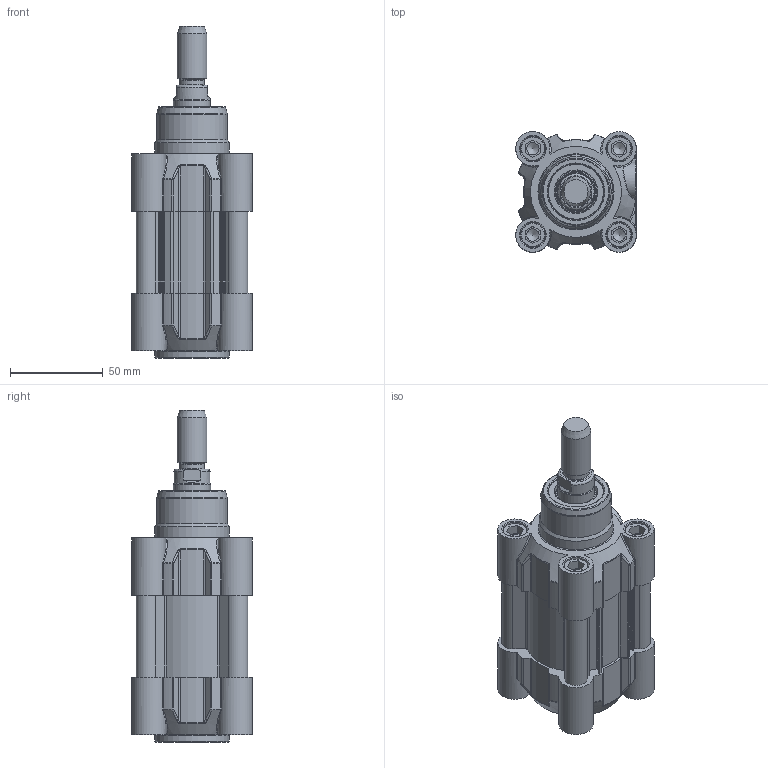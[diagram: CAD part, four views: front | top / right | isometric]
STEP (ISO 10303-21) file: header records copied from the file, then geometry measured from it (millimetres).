
FILE_DESCRIPTION(/* description */ ('CILINDRO D.E. MAGNETICO AMMORTIZZATO ISO 15552'),/* implementation_level */ '2;1');
FILE_NAME(/* name */ 'T:\Archivio Inventor\- 00 NUOVI STP PER SITO CON STELO CHE SI MUOVE\SERIE H - U\SERIE HDM\HDM050 - TUBO NUOVO\HDM050.000.GS.M.stp',/* time_stamp */ '2018-07-26T09:27:03+02:00',/* author */ ('carlo.corazza'),/* organization */ (''),/* preprocessor_version */ 'ST-DEVELOPER v16.5',/* originating_system */ 'Autodesk Inventor 2017',/* authorisation */ '');
FILE_SCHEMA (('AUTOMOTIVE_DESIGN { 1 0 10303 214 3 1 1 }'));
Length unit declared in the file: millimetre
Products named in the file (5): HDM050.000.GS.M; TP; TA; STELO-000; CORPO-000
Assembly tree (4 placements, depth 2):
  HDM050.000.GS.M
    TP
    TA
    STELO-000
    CORPO-000
Bounding box: 64.99 x 64.97 x 179 mm (x, y, z)
Volume: 264769.6 mm3; surface area: 109406.7 mm2
Topology: 6 solids, 25 shells, 1095 faces, 2594 edges, 1621 vertices
Faces by surface type: plane 388, cylinder 274, bspline 189, torus 100, cone 98, sphere 46
Full cylindrical faces by diameter (mm): 2.8 x2, 2.9 x2, 4.8 x2, 5.25 x2, 6.647 x8, 8 x8, 8.3 x10, 9 x2, 9.8 x4, 9.9 x2, 10 x4, 11.445 x2, 12 x1, 13 x8, 13.3 x8, 13.5 x1, 16 x1, 19.5 x1, 20 x1, 20.8 x1, 20.847 x1, 24 x1, 26 x2, 30 x3, 38 x1, 40 x2, 50 x1
Entity records: 35520 total; most frequent: CARTESIAN_POINT 10686, DIRECTION 4693, ORIENTED_EDGE 4660, EDGE_CURVE 2330, AXIS2_PLACEMENT_3D 1824, VERTEX_POINT 1572, EDGE_LOOP 1422, STYLED_ITEM 1099
